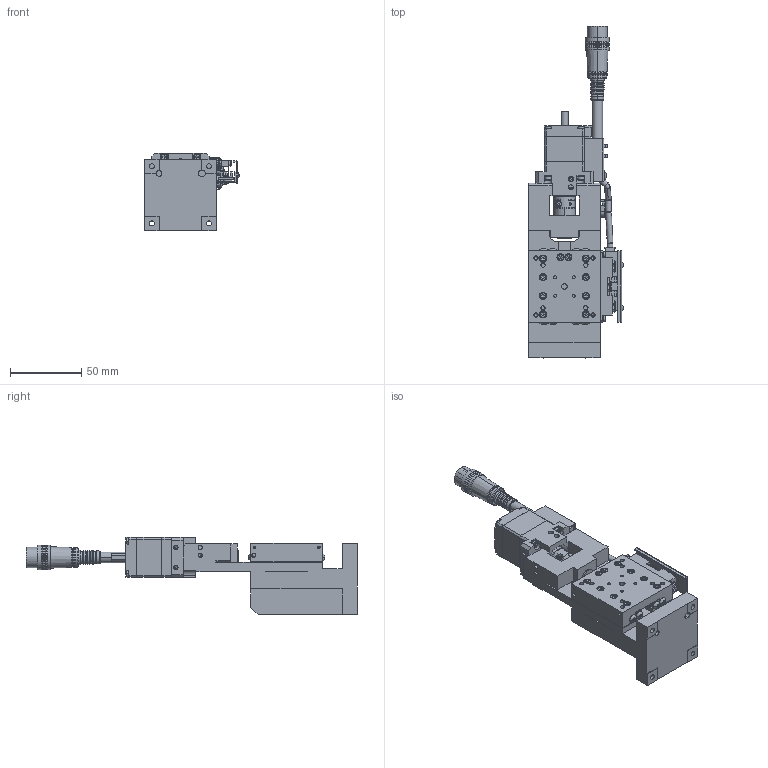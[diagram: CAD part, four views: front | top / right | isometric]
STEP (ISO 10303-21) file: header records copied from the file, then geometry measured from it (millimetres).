
FILE_DESCRIPTION (( 'STEP AP203' ), '1' );
FILE_NAME ('ZA05A-X102-R.STEP', '2019-02-21T00:43:59', ( '' ), ( '' ), 'SwSTEP 2.0', 'SolidWorks 2018', '' );
FILE_SCHEMA (( 'CONFIG_CONTROL_DESIGN' ));
Length unit declared in the file: millimetre
Products named in the file (6): base; base-Part-2; base-Part-1; table; base-Part-3; ZA05A-X102-R
Assembly tree (5 placements, depth 3):
  ZA05A-X102-R
    base
      base-Part-1
      base-Part-2
      base-Part-3
    table
Bounding box: 66.18 x 232.5 x 54 mm (x, y, z)
Volume: 201129.8 mm3; surface area: 72453 mm2
Topology: 4 solids, 5 shells, 2335 faces, 5767 edges, 3519 vertices
Faces by surface type: plane 1388, cylinder 549, cone 258, torus 106, sphere 34
Entity records: 69408 total; most frequent: CARTESIAN_POINT 12463, DIRECTION 12326, ORIENTED_EDGE 11338, EDGE_CURVE 5669, AXIS2_PLACEMENT_3D 4422, VERTEX_POINT 3513, LINE 3482, VECTOR 3482
